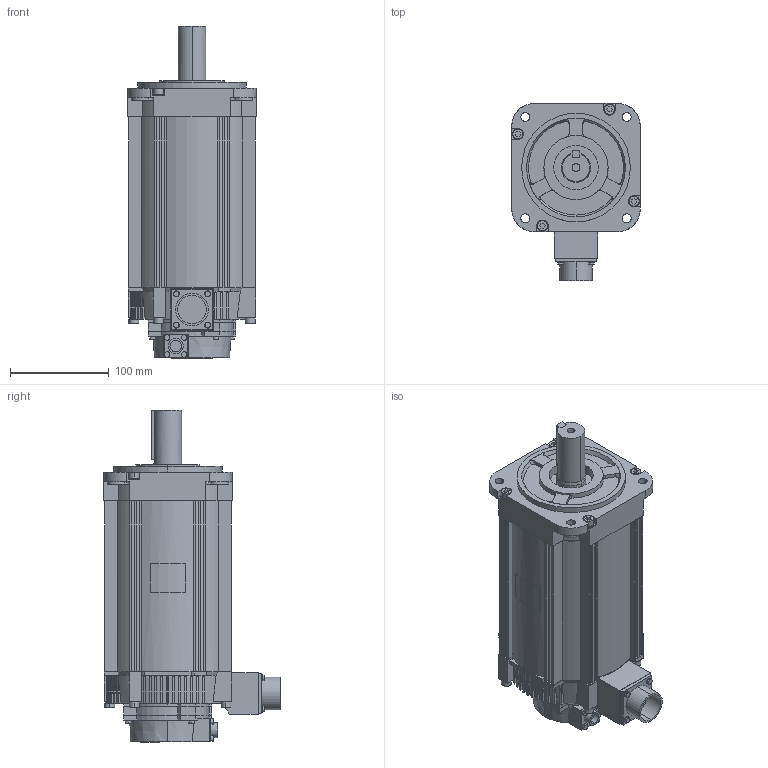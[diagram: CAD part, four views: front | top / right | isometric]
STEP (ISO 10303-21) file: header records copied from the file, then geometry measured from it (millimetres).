
FILE_DESCRIPTION (( 'STEP AP203' ), '1' );
FILE_NAME ('sgm7a_50a_a61.STEP', '2016-02-18T23:41:04', ( '匠エンジニアリング山之内' ), ( 'TAKUMI-Engniaring' ), 'SwSTEP 2.0', 'SolidWorks 2006303', '' );
FILE_SCHEMA (( 'CONFIG_CONTROL_DESIGN' ));
Length unit declared in the file: millimetre
Products named in the file (3): sgm7a_50a_a61_base; sgm7a_50a_a61_key; sgm7a_50a_a61
Assembly tree (2 placements, depth 2):
  sgm7a_50a_a61
    sgm7a_50a_a61_base
    sgm7a_50a_a61_key
Bounding box: 130 x 179 x 336.1 mm (x, y, z)
Volume: 3530005 mm3; surface area: 229642.9 mm2
Topology: 2 solids, 2 shells, 723 faces, 1913 edges, 1257 vertices
Faces by surface type: plane 486, cylinder 211, cone 20, bspline 6
Entity records: 23162 total; most frequent: CARTESIAN_POINT 4661, ORIENTED_EDGE 3826, DIRECTION 3776, EDGE_CURVE 1913, AXIS2_PLACEMENT_3D 1285, VERTEX_POINT 1257, VECTOR 1206, LINE 1206
